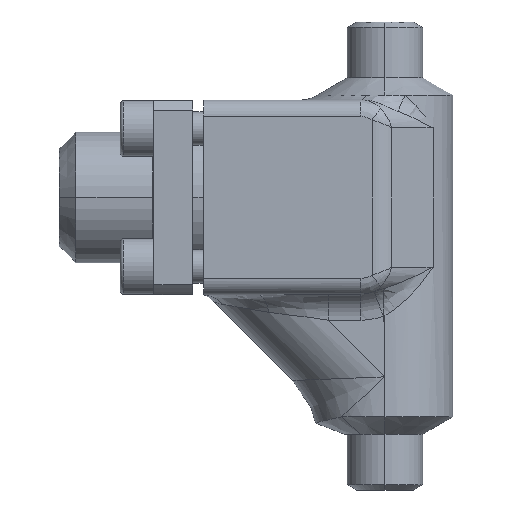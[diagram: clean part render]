
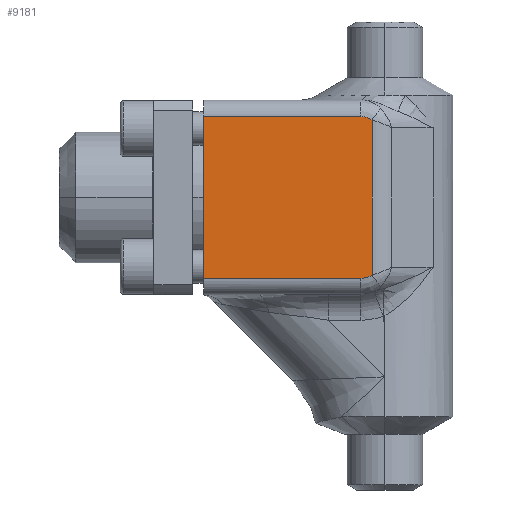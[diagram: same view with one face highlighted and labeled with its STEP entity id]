
A CAD part, left-side view. The second image highlights one B-rep face of the part: STEP entity #9181.
In plain terms, the highlighted planar face has unit normal (-1, 0, 0).
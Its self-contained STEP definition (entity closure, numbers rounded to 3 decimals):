
#661 = CARTESIAN_POINT ( 'NONE',  ( -17.5, 2.318, -3.586 ) ) ;
#2293 = LINE ( 'NONE', #2294, #2295 ) ;
#2294 = CARTESIAN_POINT ( 'NONE',  ( -17.5, 2.318, -35. ) ) ;
#2295 = VECTOR ( 'NONE', #2296, 1000. ) ;
#2296 = DIRECTION ( 'NONE',  ( 0., 0., 1. ) ) ;
#4608 = CARTESIAN_POINT ( 'NONE',  ( -17.5, 2.318, -31.414 ) ) ;
#6283 =( BOUNDED_CURVE ( )  B_SPLINE_CURVE ( 3, ( #6284, #6285, #6288, #6289 ),
 .UNSPECIFIED., .F., .F. ) 
 B_SPLINE_CURVE_WITH_KNOTS ( ( 4, 4 ),
 ( 1.571, 2.356 ),
 .UNSPECIFIED. ) 
 CURVE ( )  GEOMETRIC_REPRESENTATION_ITEM ( )  RATIONAL_B_SPLINE_CURVE ( ( 1., 0.949, 0.949, 1. ) ) 
 REPRESENTATION_ITEM ( '' )  );
#6284 = CARTESIAN_POINT ( 'NONE',  ( -17.5, 4.318, -32. ) ) ;
#6285 = CARTESIAN_POINT ( 'NONE',  ( -17.5, 3.557, -32. ) ) ;
#6288 = CARTESIAN_POINT ( 'NONE',  ( -17.5, 2.855, -31.794 ) ) ;
#6289 = CARTESIAN_POINT ( 'NONE',  ( -17.5, 2.318, -31.414 ) ) ;
#6905 = EDGE_LOOP ( 'NONE', ( #8428, #8001, #7909, #7082, #12003, #13013 ) ) ;
#6923 = EDGE_CURVE ( 'NONE', #7572, #12486, #13798, .T. ) ;
#7082 = ORIENTED_EDGE ( 'NONE', *, *, #6923, .T. ) ;
#7572 = VERTEX_POINT ( 'NONE', #661 ) ;
#7780 = EDGE_CURVE ( 'NONE', #7950, #7572, #2293, .T. ) ;
#7909 = ORIENTED_EDGE ( 'NONE', *, *, #7780, .T. ) ;
#7950 = VERTEX_POINT ( 'NONE', #4608 ) ;
#7967 = EDGE_CURVE ( 'NONE', #8044, #7950, #6283, .T. ) ;
#8001 = ORIENTED_EDGE ( 'NONE', *, *, #7967, .T. ) ;
#8044 = VERTEX_POINT ( 'NONE', #8780 ) ;
#8065 = VERTEX_POINT ( 'NONE', #9620 ) ;
#8082 = EDGE_CURVE ( 'NONE', #8065, #8044, #10237, .T. ) ;
#8428 = ORIENTED_EDGE ( 'NONE', *, *, #8082, .T. ) ;
#8780 = CARTESIAN_POINT ( 'NONE',  ( -17.5, 4.318, -32. ) ) ;
#9181 = ADVANCED_FACE ( 'NONE', ( #12289 ), #12290, .T. ) ;
#9620 = CARTESIAN_POINT ( 'NONE',  ( -17.5, 32.5, -32. ) ) ;
#9890 = CARTESIAN_POINT ( 'NONE',  ( -17.5, 4.318, -3. ) ) ;
#10237 = LINE ( 'NONE', #10238, #10239 ) ;
#10238 = CARTESIAN_POINT ( 'NONE',  ( -17.5, 0.247, -32. ) ) ;
#10239 = VECTOR ( 'NONE', #10240, 1000. ) ;
#10240 = DIRECTION ( 'NONE',  ( 0., -1., 0. ) ) ;
#10702 = LINE ( 'NONE', #10703, #10704 ) ;
#10703 = CARTESIAN_POINT ( 'NONE',  ( -17.5, 32.5, -35. ) ) ;
#10704 = VECTOR ( 'NONE', #10705, 1000. ) ;
#10705 = DIRECTION ( 'NONE',  ( 0., 0., 1. ) ) ;
#12003 = ORIENTED_EDGE ( 'NONE', *, *, #13719, .T. ) ;
#12055 = CARTESIAN_POINT ( 'NONE',  ( -17.5, 32.5, -3. ) ) ;
#12289 = FACE_OUTER_BOUND ( 'NONE', #6905, .T. ) ;
#12290 = PLANE ( 'NONE',  #12291 ) ;
#12291 = AXIS2_PLACEMENT_3D ( 'NONE', #12292, #12293, #12294 ) ;
#12292 = CARTESIAN_POINT ( 'NONE',  ( -17.5, 32.5, -35. ) ) ;
#12293 = DIRECTION ( 'NONE',  ( -1., 0., 0. ) ) ;
#12294 = DIRECTION ( 'NONE',  ( 0., -1., 0. ) ) ;
#12486 = VERTEX_POINT ( 'NONE', #9890 ) ;
#12665 = EDGE_CURVE ( 'NONE', #8065, #13507, #10702, .T. ) ;
#13013 = ORIENTED_EDGE ( 'NONE', *, *, #12665, .F. ) ;
#13507 = VERTEX_POINT ( 'NONE', #12055 ) ;
#13684 = LINE ( 'NONE', #13685, #13686 ) ;
#13685 = CARTESIAN_POINT ( 'NONE',  ( -17.5, 32.5, -3. ) ) ;
#13686 = VECTOR ( 'NONE', #13687, 1000. ) ;
#13687 = DIRECTION ( 'NONE',  ( 0., 1., 0. ) ) ;
#13719 = EDGE_CURVE ( 'NONE', #12486, #13507, #13684, .T. ) ;
#13798 =( BOUNDED_CURVE ( )  B_SPLINE_CURVE ( 3, ( #13799, #13800, #13801, #13802 ),
 .UNSPECIFIED., .F., .T. ) 
 B_SPLINE_CURVE_WITH_KNOTS ( ( 4, 4 ),
 ( 0.785, 1.571 ),
 .UNSPECIFIED. ) 
 CURVE ( )  GEOMETRIC_REPRESENTATION_ITEM ( )  RATIONAL_B_SPLINE_CURVE ( ( 1., 0.949, 0.949, 1. ) ) 
 REPRESENTATION_ITEM ( '' )  );
#13799 = CARTESIAN_POINT ( 'NONE',  ( -17.5, 2.318, -3.586 ) ) ;
#13800 = CARTESIAN_POINT ( 'NONE',  ( -17.5, 2.855, -3.206 ) ) ;
#13801 = CARTESIAN_POINT ( 'NONE',  ( -17.5, 3.557, -3. ) ) ;
#13802 = CARTESIAN_POINT ( 'NONE',  ( -17.5, 4.318, -3. ) ) ;
